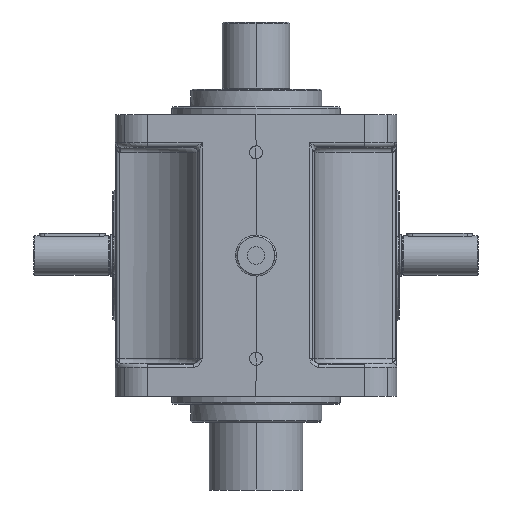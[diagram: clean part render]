
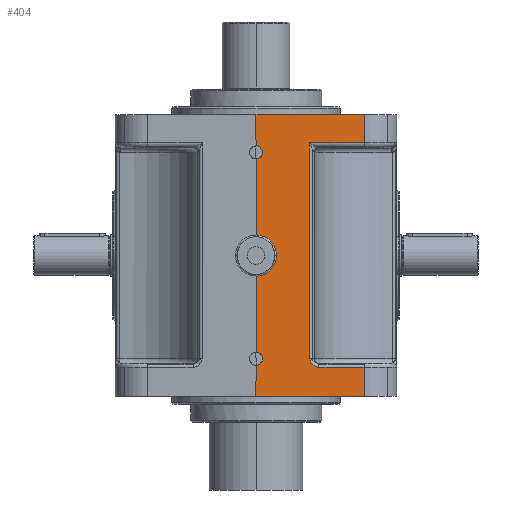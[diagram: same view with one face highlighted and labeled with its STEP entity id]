
A CAD part, left-side view. The second image highlights one B-rep face of the part: STEP entity #404.
In plain terms, the highlighted planar face has unit normal (-1, -0.02, 0).
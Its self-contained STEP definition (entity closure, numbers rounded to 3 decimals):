
#404=ADVANCED_FACE('',(#1323),#1324,.F.);
#1323=FACE_OUTER_BOUND('',#3686,.T.);
#1324=PLANE('',#3687);
#3686=EDGE_LOOP('',(#7332,#7333,#7334,#7335,#7336,#7337,#7338,#7339,#7340,#7341,#7342,#7343,#7344,#7345,#7346,#7347,#7348,#7349));
#3687=AXIS2_PLACEMENT_3D('',#7350,#7351,#7352);
#7332=ORIENTED_EDGE('',*,*,#10714,.F.);
#7333=ORIENTED_EDGE('',*,*,#10764,.F.);
#7334=ORIENTED_EDGE('',*,*,#10767,.F.);
#7335=ORIENTED_EDGE('',*,*,#10338,.F.);
#7336=ORIENTED_EDGE('',*,*,#10901,.F.);
#7337=ORIENTED_EDGE('',*,*,#10902,.F.);
#7338=ORIENTED_EDGE('',*,*,#10903,.T.);
#7339=ORIENTED_EDGE('',*,*,#10087,.T.);
#7340=ORIENTED_EDGE('',*,*,#10904,.F.);
#7341=ORIENTED_EDGE('',*,*,#10905,.F.);
#7342=ORIENTED_EDGE('',*,*,#10906,.T.);
#7343=ORIENTED_EDGE('',*,*,#10907,.T.);
#7344=ORIENTED_EDGE('',*,*,#10130,.F.);
#7345=ORIENTED_EDGE('',*,*,#10908,.F.);
#7346=ORIENTED_EDGE('',*,*,#10909,.T.);
#7347=ORIENTED_EDGE('',*,*,#10910,.T.);
#7348=ORIENTED_EDGE('',*,*,#10458,.T.);
#7349=ORIENTED_EDGE('',*,*,#10462,.F.);
#7350=CARTESIAN_POINT('',(-147.0,-150.0,300.0));
#7351=DIRECTION('',(1.,0.02,0.));
#7352=DIRECTION('',(0.0,0.,1.0));
#10087=EDGE_CURVE('',#11694,#11702,#11704,.T.);
#10130=EDGE_CURVE('',#11783,#11786,#11787,.T.);
#10338=EDGE_CURVE('',#12180,#12182,#12183,.T.);
#10458=EDGE_CURVE('',#12417,#12415,#12418,.T.);
#10462=EDGE_CURVE('',#12423,#12415,#12425,.T.);
#10714=EDGE_CURVE('',#12830,#12423,#12832,.T.);
#10764=EDGE_CURVE('',#12892,#12830,#12895,.T.);
#10767=EDGE_CURVE('',#12182,#12892,#12898,.T.);
#10901=EDGE_CURVE('',#13096,#12180,#13097,.T.);
#10902=EDGE_CURVE('',#13098,#13096,#13099,.T.);
#10903=EDGE_CURVE('',#13098,#11694,#13100,.T.);
#10904=EDGE_CURVE('',#13101,#11702,#13102,.T.);
#10905=EDGE_CURVE('',#13103,#13101,#13104,.T.);
#10906=EDGE_CURVE('',#13103,#13105,#13106,.T.);
#10907=EDGE_CURVE('',#13105,#11786,#13107,.T.);
#10908=EDGE_CURVE('',#13108,#11783,#13109,.T.);
#10909=EDGE_CURVE('',#13108,#13110,#13111,.T.);
#10910=EDGE_CURVE('',#13110,#12417,#13112,.T.);
#11694=VERTEX_POINT('',#14247);
#11702=VERTEX_POINT('',#14275);
#11704=ELLIPSE('',#14277,6.919,6.918);
#11783=VERTEX_POINT('',#14374);
#11786=VERTEX_POINT('',#14378);
#11787=ELLIPSE('',#14379,6.919,6.918);
#12180=VERTEX_POINT('',#14964);
#12182=VERTEX_POINT('',#14966);
#12183=LINE('',#14967,#14968);
#12415=VERTEX_POINT('',#15264);
#12417=VERTEX_POINT('',#15266);
#12418=LINE('',#15267,#15268);
#12423=VERTEX_POINT('',#15274);
#12425=LINE('',#15276,#15277);
#12830=VERTEX_POINT('',#15985);
#12832=B_SPLINE_CURVE_WITH_KNOTS('',3,(#16002,#16003,#16004,#16005,#16006,#16007,#16008,#16009,#16010,#16011,#16012,#16013,#16014,#16015,#16016,#16017),.UNSPECIFIED.,.F.,.F.,(4,2,1,1,1,1,1,1,1,1,1,1,4),(-0.001,0.0,0.144,0.288,0.433,0.577,0.721,0.865,0.937,1.009,1.154,1.298,1.442),.UNSPECIFIED.);
#12892=VERTEX_POINT('',#16118);
#12895=LINE('',#16121,#16122);
#12898=LINE('',#16125,#16126);
#13096=VERTEX_POINT('',#16493);
#13097=LINE('',#16494,#16495);
#13098=VERTEX_POINT('',#16496);
#13099=LINE('',#16497,#16498);
#13100=ELLIPSE('',#16499,6.919,6.918);
#13101=VERTEX_POINT('',#16500);
#13102=LINE('',#16501,#16502);
#13103=VERTEX_POINT('',#16503);
#13104=ELLIPSE('',#16504,21.904,21.9);
#13105=VERTEX_POINT('',#16505);
#13106=ELLIPSE('',#16506,21.904,21.9);
#13107=LINE('',#16507,#16508);
#13108=VERTEX_POINT('',#16509);
#13109=ELLIPSE('',#16510,6.919,6.918);
#13110=VERTEX_POINT('',#16511);
#13111=LINE('',#16512,#16513);
#13112=LINE('',#16514,#16515);
#14247=CARTESIAN_POINT('',(-149.862,-6.917,260.0));
#14275=CARTESIAN_POINT('',(-150.0,0.,253.083));
#14277=AXIS2_PLACEMENT_3D('',#18167,#18168,#18169);
#14374=CARTESIAN_POINT('',(-149.862,-6.917,40.0));
#14378=CARTESIAN_POINT('',(-150.0,0.,46.918));
#14379=AXIS2_PLACEMENT_3D('',#18258,#18259,#18260);
#14964=CARTESIAN_POINT('',(-147.686,-115.7,300.0));
#14966=CARTESIAN_POINT('',(-147.686,-115.7,270.0));
#14967=CARTESIAN_POINT('',(-147.686,-115.7,300.0));
#14968=VECTOR('',#18619,30.0);
#15264=CARTESIAN_POINT('',(-147.686,-115.7,31.0));
#15266=CARTESIAN_POINT('',(-147.686,-115.7,0.));
#15267=CARTESIAN_POINT('',(-147.686,-115.7,26.5));
#15268=VECTOR('',#18855,31.);
#15274=CARTESIAN_POINT('',(-148.659,-67.073,31.0));
#15276=CARTESIAN_POINT('',(-147.38,-130.978,31.0));
#15277=VECTOR('',#18863,48.637);
#15985=CARTESIAN_POINT('',(-148.858,-57.125,40.0));
#16002=CARTESIAN_POINT('',(-148.858,-57.125,40.0));
#16003=CARTESIAN_POINT('',(-148.857,-57.126,39.996));
#16004=CARTESIAN_POINT('',(-148.857,-57.127,39.992));
#16005=CARTESIAN_POINT('',(-148.854,-57.281,39.531));
#16006=CARTESIAN_POINT('',(-148.848,-57.585,38.621));
#16007=CARTESIAN_POINT('',(-148.838,-58.113,37.272));
#16008=CARTESIAN_POINT('',(-148.825,-58.762,35.981));
#16009=CARTESIAN_POINT('',(-148.809,-59.562,34.773));
#16010=CARTESIAN_POINT('',(-148.79,-60.52,33.684));
#16011=CARTESIAN_POINT('',(-148.771,-61.44,32.903));
#16012=CARTESIAN_POINT('',(-148.755,-62.248,32.363));
#16013=CARTESIAN_POINT('',(-148.738,-63.093,31.888));
#16014=CARTESIAN_POINT('',(-148.716,-64.203,31.423));
#16015=CARTESIAN_POINT('',(-148.688,-65.624,31.076));
#16016=CARTESIAN_POINT('',(-148.668,-66.592,31.0));
#16017=CARTESIAN_POINT('',(-148.659,-67.073,31.0));
#16118=CARTESIAN_POINT('',(-148.858,-57.125,270.0));
#16121=CARTESIAN_POINT('',(-148.858,-57.125,235.0));
#16122=VECTOR('',#19490,230.0);
#16125=CARTESIAN_POINT('',(-147.38,-130.978,270.0));
#16126=VECTOR('',#19497,58.587);
#16493=CARTESIAN_POINT('',(-150.0,0.,300.0));
#16494=CARTESIAN_POINT('',(-148.459,-77.049,300.0));
#16495=VECTOR('',#19731,115.723);
#16496=CARTESIAN_POINT('',(-150.0,0.,266.918));
#16497=CARTESIAN_POINT('',(-150.0,0.,300.0));
#16498=VECTOR('',#19732,33.083);
#16499=AXIS2_PLACEMENT_3D('',#19733,#19734,#19735);
#16500=CARTESIAN_POINT('',(-150.0,0.,171.9));
#16501=CARTESIAN_POINT('',(-150.0,0.,300.0));
#16502=VECTOR('',#19736,81.183);
#16503=CARTESIAN_POINT('',(-149.563,-21.862,150.0));
#16504=AXIS2_PLACEMENT_3D('',#19737,#19738,#19739);
#16505=CARTESIAN_POINT('',(-150.0,0.,128.1));
#16506=AXIS2_PLACEMENT_3D('',#19740,#19741,#19742);
#16507=CARTESIAN_POINT('',(-150.0,0.,0.));
#16508=VECTOR('',#19743,81.183);
#16509=CARTESIAN_POINT('',(-150.0,0.,33.083));
#16510=AXIS2_PLACEMENT_3D('',#19744,#19745,#19746);
#16511=CARTESIAN_POINT('',(-150.0,0.,0.));
#16512=CARTESIAN_POINT('',(-150.0,0.,0.));
#16513=VECTOR('',#19747,33.083);
#16514=CARTESIAN_POINT('',(-148.459,-77.049,0.));
#16515=VECTOR('',#19748,115.723);
#18167=CARTESIAN_POINT('',(-150.0,0.,260.0));
#18168=DIRECTION('',(1.,0.02,0.));
#18169=DIRECTION('',(0.02,-1.,0.));
#18258=CARTESIAN_POINT('',(-150.0,0.,40.0));
#18259=DIRECTION('',(-1.,-0.02,0.));
#18260=DIRECTION('',(0.02,-1.,0.));
#18619=DIRECTION('',(0.0,0.,-1.0));
#18855=DIRECTION('',(0.0,0.,1.0));
#18863=DIRECTION('',(0.02,-1.,0.));
#19490=DIRECTION('',(0.0,0.,-1.0));
#19497=DIRECTION('',(-0.02,1.,0.));
#19731=DIRECTION('',(0.02,-1.,0.));
#19732=DIRECTION('',(0.0,0.,1.0));
#19733=CARTESIAN_POINT('',(-150.0,0.,260.0));
#19734=DIRECTION('',(1.,0.02,0.));
#19735=DIRECTION('',(0.02,-1.,0.));
#19736=DIRECTION('',(0.0,0.,1.0));
#19737=CARTESIAN_POINT('',(-150.001,0.038,150.0));
#19738=DIRECTION('',(-1.,-0.02,0.));
#19739=DIRECTION('',(0.02,-1.,0.));
#19740=CARTESIAN_POINT('',(-150.001,0.038,150.0));
#19741=DIRECTION('',(1.,0.02,0.));
#19742=DIRECTION('',(0.02,-1.,0.));
#19743=DIRECTION('',(0.0,0.,-1.0));
#19744=CARTESIAN_POINT('',(-150.0,0.,40.0));
#19745=DIRECTION('',(-1.,-0.02,0.));
#19746=DIRECTION('',(0.02,-1.,0.));
#19747=DIRECTION('',(0.0,0.,-1.0));
#19748=DIRECTION('',(0.02,-1.,0.));
